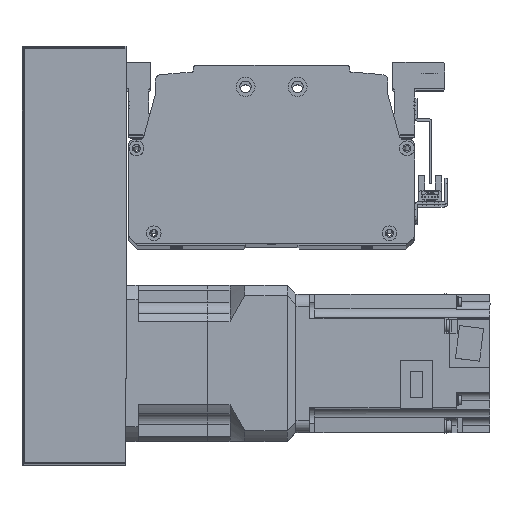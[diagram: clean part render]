
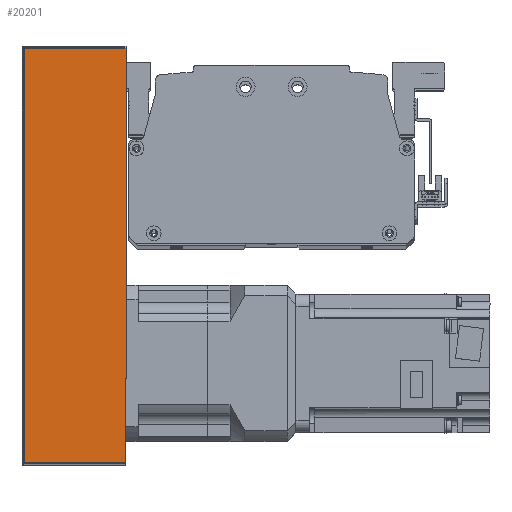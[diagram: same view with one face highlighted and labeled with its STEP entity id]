
A CAD part, top view. The second image highlights one B-rep face of the part: STEP entity #20201.
In plain terms, the highlighted planar face has unit normal (0, 0, 1) as drawn and (0, 1, 0) by its records, which use the part's own axes.
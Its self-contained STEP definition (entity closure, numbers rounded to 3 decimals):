
#597=PLANE('',#22047);
#1725=LINE('',#32485,#3385);
#1747=LINE('',#32578,#3407);
#1749=LINE('',#32588,#3409);
#1751=LINE('',#32591,#3411);
#3385=VECTOR('',#26300,10.);
#3407=VECTOR('',#26420,10.);
#3409=VECTOR('',#26434,10.);
#3411=VECTOR('',#26438,10.);
#5422=FACE_OUTER_BOUND('',#6878,.T.);
#6878=EDGE_LOOP('',(#16404,#16405,#16406,#16407));
#9776=VERTEX_POINT('',#32482);
#9777=VERTEX_POINT('',#32484);
#9798=VERTEX_POINT('',#32572);
#9801=VERTEX_POINT('',#32584);
#12150=EDGE_CURVE('',#9776,#9777,#1725,.T.);
#12198=EDGE_CURVE('',#9798,#9776,#1747,.T.);
#12203=EDGE_CURVE('',#9777,#9801,#1749,.T.);
#12205=EDGE_CURVE('',#9801,#9798,#1751,.T.);
#16404=ORIENTED_EDGE('',*,*,#12198,.F.);
#16405=ORIENTED_EDGE('',*,*,#12205,.F.);
#16406=ORIENTED_EDGE('',*,*,#12203,.F.);
#16407=ORIENTED_EDGE('',*,*,#12150,.F.);
#20201=ADVANCED_FACE('',(#5422),#597,.T.);
#22047=AXIS2_PLACEMENT_3D('',#32597,#26446,#26447);
#26300=DIRECTION('',(-1.,0.,0.));
#26420=DIRECTION('',(0.,0.,1.));
#26434=DIRECTION('',(0.,0.,-1.));
#26438=DIRECTION('',(1.,0.,0.));
#26446=DIRECTION('center_axis',(0.,1.,0.));
#26447=DIRECTION('ref_axis',(-1.,0.,0.));
#32482=CARTESIAN_POINT('',(120.,51.,30.));
#32484=CARTESIAN_POINT('',(-120.,51.,30.));
#32485=CARTESIAN_POINT('',(-121.,51.,30.));
#32572=CARTESIAN_POINT('',(120.,51.,-29.));
#32578=CARTESIAN_POINT('',(120.,51.,0.));
#32584=CARTESIAN_POINT('',(-120.,51.,-29.));
#32588=CARTESIAN_POINT('',(-120.,51.,0.));
#32591=CARTESIAN_POINT('',(60.5,51.,-29.));
#32597=CARTESIAN_POINT('Origin',(121.,51.,0.));
